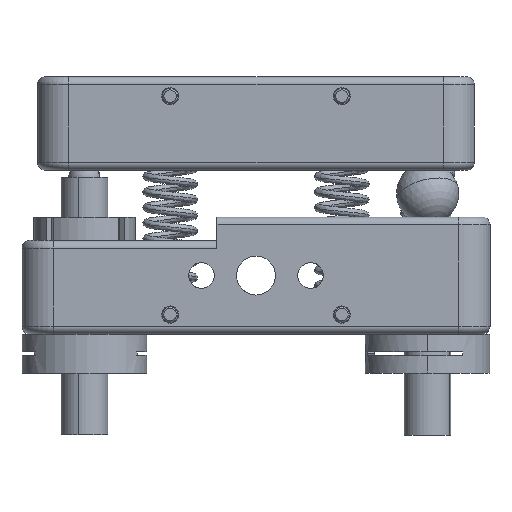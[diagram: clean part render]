
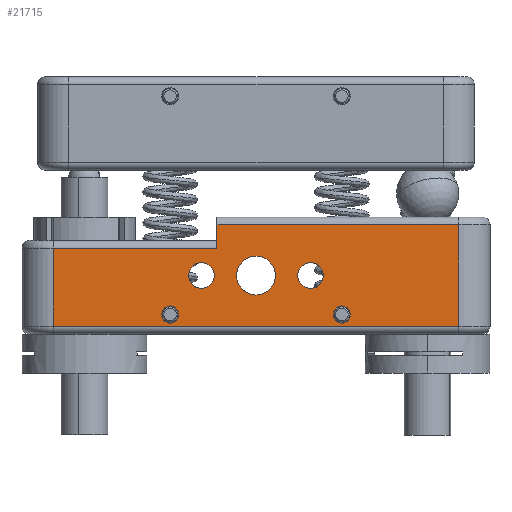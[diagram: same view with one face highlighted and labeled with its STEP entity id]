
A CAD part, left-side view. The second image highlights one B-rep face of the part: STEP entity #21715.
In plain terms, the highlighted planar face has unit normal (-1, 0, 0).
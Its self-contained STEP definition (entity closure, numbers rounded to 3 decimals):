
#111 = ORIENTED_EDGE ( 'NONE', *, *, #7752, .T. ) ;
#269 = AXIS2_PLACEMENT_3D ( 'NONE', #3265, #16170, #5066 ) ;
#406 = EDGE_CURVE ( 'NONE', #20799, #4411, #5115, .T. ) ;
#437 = VERTEX_POINT ( 'NONE', #9487 ) ;
#506 = CARTESIAN_POINT ( 'NONE',  ( -31.266, 5.345, 11. ) ) ;
#511 = DIRECTION ( 'NONE',  ( 0., 0., 1. ) ) ;
#738 = FACE_BOUND ( 'NONE', #16168, .T. ) ;
#922 = DIRECTION ( 'NONE',  ( -1., 0., 0. ) ) ;
#984 = CARTESIAN_POINT ( 'NONE',  ( -31.266, -10.655, 2.5 ) ) ;
#1332 = EDGE_CURVE ( 'NONE', #3643, #23104, #8887, .T. ) ;
#1652 = CARTESIAN_POINT ( 'NONE',  ( -31.266, 26.345, 11. ) ) ;
#2267 = VECTOR ( 'NONE', #17707, 1000. ) ;
#2373 = ORIENTED_EDGE ( 'NONE', *, *, #16230, .T. ) ;
#2389 = VECTOR ( 'NONE', #6698, 1000. ) ;
#2422 = FACE_BOUND ( 'NONE', #20672, .T. ) ;
#2715 = CIRCLE ( 'NONE', #4018, 1.1 ) ;
#2752 = CARTESIAN_POINT ( 'NONE',  ( -31.266, 11.345, 2.5 ) ) ;
#2787 = DIRECTION ( 'NONE',  ( 0., 0., 1. ) ) ;
#3214 = CARTESIAN_POINT ( 'NONE',  ( -31.266, 26.345, 15. ) ) ;
#3265 = CARTESIAN_POINT ( 'NONE',  ( -31.266, 11.345, 2.5 ) ) ;
#3626 = DIRECTION ( 'NONE',  ( -1., 0., 0. ) ) ;
#3643 = VERTEX_POINT ( 'NONE', #21770 ) ;
#3853 = CARTESIAN_POINT ( 'NONE',  ( -31.266, -10.655, 1.4 ) ) ;
#3863 = ORIENTED_EDGE ( 'NONE', *, *, #9058, .F. ) ;
#3909 = LINE ( 'NONE', #16360, #8179 ) ;
#3978 = AXIS2_PLACEMENT_3D ( 'NONE', #22540, #11443, #511 ) ;
#4018 = AXIS2_PLACEMENT_3D ( 'NONE', #984, #13809, #2787 ) ;
#4144 = VECTOR ( 'NONE', #14368, 1000. ) ;
#4254 = VERTEX_POINT ( 'NONE', #4862 ) ;
#4411 = VERTEX_POINT ( 'NONE', #16114 ) ;
#4576 = CARTESIAN_POINT ( 'NONE',  ( -31.266, 30.345, 1. ) ) ;
#4577 = DIRECTION ( 'NONE',  ( 0., 0., 1. ) ) ;
#4616 = ORIENTED_EDGE ( 'NONE', *, *, #1332, .F. ) ;
#4732 = AXIS2_PLACEMENT_3D ( 'NONE', #9227, #22184, #11084 ) ;
#4743 = CARTESIAN_POINT ( 'NONE',  ( -31.266, -25.655, 15. ) ) ;
#4862 = CARTESIAN_POINT ( 'NONE',  ( -31.266, 26.345, 1. ) ) ;
#5066 = DIRECTION ( 'NONE',  ( 0., 0., 1. ) ) ;
#5115 = CIRCLE ( 'NONE', #12026, 2.5 ) ;
#5213 = CIRCLE ( 'NONE', #20154, 1.65 ) ;
#5217 = ORIENTED_EDGE ( 'NONE', *, *, #12621, .F. ) ;
#5235 = CIRCLE ( 'NONE', #21394, 2.5 ) ;
#5304 = LINE ( 'NONE', #3214, #9630 ) ;
#5521 = FACE_BOUND ( 'NONE', #7957, .T. ) ;
#5783 = CARTESIAN_POINT ( 'NONE',  ( -31.266, 11.345, 1.4 ) ) ;
#6345 = LINE ( 'NONE', #12271, #2389 ) ;
#6423 = ORIENTED_EDGE ( 'NONE', *, *, #8915, .F. ) ;
#6698 = DIRECTION ( 'NONE',  ( 0., 1., 0. ) ) ;
#6809 = ORIENTED_EDGE ( 'NONE', *, *, #406, .F. ) ;
#6820 = DIRECTION ( 'NONE',  ( 0., 0., -1. ) ) ;
#7368 = CARTESIAN_POINT ( 'NONE',  ( -31.266, -25.655, 14. ) ) ;
#7658 = CARTESIAN_POINT ( 'NONE',  ( -31.266, 0.345, 7.5 ) ) ;
#7752 = EDGE_CURVE ( 'NONE', #20217, #4254, #5304, .T. ) ;
#7957 = EDGE_LOOP ( 'NONE', ( #6809, #5217 ) ) ;
#8009 = CARTESIAN_POINT ( 'NONE',  ( -31.266, 0.345, 10. ) ) ;
#8179 = VECTOR ( 'NONE', #12610, 1000. ) ;
#8432 = CARTESIAN_POINT ( 'NONE',  ( -31.266, -25.655, 1. ) ) ;
#8463 = EDGE_LOOP ( 'NONE', ( #111, #2373, #14830, #19815, #17528, #13643 ) ) ;
#8482 = EDGE_CURVE ( 'NONE', #22182, #10419, #10777, .T. ) ;
#8582 = EDGE_CURVE ( 'NONE', #11191, #20217, #15110, .T. ) ;
#8671 = EDGE_CURVE ( 'NONE', #23104, #3643, #12233, .T. ) ;
#8757 = VERTEX_POINT ( 'NONE', #3853 ) ;
#8887 = CIRCLE ( 'NONE', #10889, 1.65 ) ;
#8915 = EDGE_CURVE ( 'NONE', #8757, #18630, #14266, .T. ) ;
#9058 = EDGE_CURVE ( 'NONE', #18630, #8757, #2715, .T. ) ;
#9227 = CARTESIAN_POINT ( 'NONE',  ( -31.266, 7.345, 7.5 ) ) ;
#9347 = CARTESIAN_POINT ( 'NONE',  ( -31.266, -10.655, 3.6 ) ) ;
#9487 = CARTESIAN_POINT ( 'NONE',  ( -31.266, -6.655, 5.85 ) ) ;
#9566 = AXIS2_PLACEMENT_3D ( 'NONE', #16050, #18020, #6820 ) ;
#9630 = VECTOR ( 'NONE', #21761, 1000. ) ;
#9723 = EDGE_CURVE ( 'NONE', #10419, #22182, #13201, .T. ) ;
#9830 = EDGE_CURVE ( 'NONE', #22001, #11047, #22456, .T. ) ;
#9873 = AXIS2_PLACEMENT_3D ( 'NONE', #10603, #23577, #12483 ) ;
#9893 = EDGE_CURVE ( 'NONE', #437, #17077, #21033, .T. ) ;
#9929 = CARTESIAN_POINT ( 'NONE',  ( -31.266, -6.655, 9.15 ) ) ;
#10333 = DIRECTION ( 'NONE',  ( -1., 0., 0. ) ) ;
#10419 = VERTEX_POINT ( 'NONE', #5783 ) ;
#10462 = FACE_BOUND ( 'NONE', #15928, .T. ) ;
#10603 = CARTESIAN_POINT ( 'NONE',  ( -31.266, -6.655, 7.5 ) ) ;
#10705 = CARTESIAN_POINT ( 'NONE',  ( -31.266, 26.345, 11. ) ) ;
#10777 = CIRCLE ( 'NONE', #269, 1.1 ) ;
#10889 = AXIS2_PLACEMENT_3D ( 'NONE', #21179, #10333, #13660 ) ;
#11047 = VERTEX_POINT ( 'NONE', #7368 ) ;
#11084 = DIRECTION ( 'NONE',  ( 0., 0., 1. ) ) ;
#11191 = VERTEX_POINT ( 'NONE', #506 ) ;
#11443 = DIRECTION ( 'NONE',  ( -1., 0., 0. ) ) ;
#11878 = CARTESIAN_POINT ( 'NONE',  ( -31.266, 0.345, 7.5 ) ) ;
#12026 = AXIS2_PLACEMENT_3D ( 'NONE', #7658, #21482, #17969 ) ;
#12225 = FACE_BOUND ( 'NONE', #17693, .T. ) ;
#12233 = CIRCLE ( 'NONE', #4732, 1.65 ) ;
#12271 = CARTESIAN_POINT ( 'NONE',  ( -31.266, 5.345, 14. ) ) ;
#12483 = DIRECTION ( 'NONE',  ( 0., 0., 1. ) ) ;
#12502 = ORIENTED_EDGE ( 'NONE', *, *, #8482, .F. ) ;
#12610 = DIRECTION ( 'NONE',  ( 0., 0., 1. ) ) ;
#12621 = EDGE_CURVE ( 'NONE', #4411, #20799, #5235, .T. ) ;
#13201 = CIRCLE ( 'NONE', #13307, 1.1 ) ;
#13307 = AXIS2_PLACEMENT_3D ( 'NONE', #2752, #15646, #4577 ) ;
#13464 = VECTOR ( 'NONE', #15645, 1000. ) ;
#13566 = EDGE_CURVE ( 'NONE', #17077, #437, #5213, .T. ) ;
#13643 = ORIENTED_EDGE ( 'NONE', *, *, #8582, .T. ) ;
#13660 = DIRECTION ( 'NONE',  ( 0., 0., 1. ) ) ;
#13712 = ORIENTED_EDGE ( 'NONE', *, *, #9893, .F. ) ;
#13757 = DIRECTION ( 'NONE',  ( 0., 0., 1. ) ) ;
#13809 = DIRECTION ( 'NONE',  ( -1., 0., 0. ) ) ;
#14266 = CIRCLE ( 'NONE', #3978, 1.1 ) ;
#14368 = DIRECTION ( 'NONE',  ( 0., 1., 0. ) ) ;
#14660 = CARTESIAN_POINT ( 'NONE',  ( -31.266, -6.655, 7.5 ) ) ;
#14830 = ORIENTED_EDGE ( 'NONE', *, *, #9830, .T. ) ;
#15110 = LINE ( 'NONE', #10705, #4144 ) ;
#15286 = ORIENTED_EDGE ( 'NONE', *, *, #9723, .F. ) ;
#15645 = DIRECTION ( 'NONE',  ( 0., -1., 0. ) ) ;
#15646 = DIRECTION ( 'NONE',  ( -1., 0., 0. ) ) ;
#15928 = EDGE_LOOP ( 'NONE', ( #3863, #6423 ) ) ;
#16050 = CARTESIAN_POINT ( 'NONE',  ( -31.266, 30.345, 15. ) ) ;
#16114 = CARTESIAN_POINT ( 'NONE',  ( -31.266, 0.345, 5. ) ) ;
#16168 = EDGE_LOOP ( 'NONE', ( #4616, #20050 ) ) ;
#16170 = DIRECTION ( 'NONE',  ( -1., 0., 0. ) ) ;
#16230 = EDGE_CURVE ( 'NONE', #4254, #22001, #17865, .T. ) ;
#16360 = CARTESIAN_POINT ( 'NONE',  ( -31.266, 5.345, 12. ) ) ;
#16546 = DIRECTION ( 'NONE',  ( 0., 0., 1. ) ) ;
#17077 = VERTEX_POINT ( 'NONE', #9929 ) ;
#17528 = ORIENTED_EDGE ( 'NONE', *, *, #18472, .F. ) ;
#17693 = EDGE_LOOP ( 'NONE', ( #12502, #15286 ) ) ;
#17707 = DIRECTION ( 'NONE',  ( 0., 0., 1. ) ) ;
#17865 = LINE ( 'NONE', #4576, #13464 ) ;
#17969 = DIRECTION ( 'NONE',  ( 0., 0., 1. ) ) ;
#18020 = DIRECTION ( 'NONE',  ( 1., 0., 0. ) ) ;
#18150 = VERTEX_POINT ( 'NONE', #20472 ) ;
#18472 = EDGE_CURVE ( 'NONE', #11191, #18150, #3909, .T. ) ;
#18526 = CARTESIAN_POINT ( 'NONE',  ( -31.266, 11.345, 3.6 ) ) ;
#18630 = VERTEX_POINT ( 'NONE', #9347 ) ;
#19767 = FACE_OUTER_BOUND ( 'NONE', #8463, .T. ) ;
#19815 = ORIENTED_EDGE ( 'NONE', *, *, #22075, .T. ) ;
#20050 = ORIENTED_EDGE ( 'NONE', *, *, #8671, .F. ) ;
#20154 = AXIS2_PLACEMENT_3D ( 'NONE', #14660, #3626, #16546 ) ;
#20217 = VERTEX_POINT ( 'NONE', #1652 ) ;
#20472 = CARTESIAN_POINT ( 'NONE',  ( -31.266, 5.345, 14. ) ) ;
#20672 = EDGE_LOOP ( 'NONE', ( #22829, #13712 ) ) ;
#20799 = VERTEX_POINT ( 'NONE', #8009 ) ;
#21033 = CIRCLE ( 'NONE', #9873, 1.65 ) ;
#21179 = CARTESIAN_POINT ( 'NONE',  ( -31.266, 7.345, 7.5 ) ) ;
#21394 = AXIS2_PLACEMENT_3D ( 'NONE', #11878, #922, #13757 ) ;
#21482 = DIRECTION ( 'NONE',  ( -1., 0., 0. ) ) ;
#21644 = CARTESIAN_POINT ( 'NONE',  ( -31.266, 7.345, 5.85 ) ) ;
#21715 = ADVANCED_FACE ( 'NONE', ( #10462, #12225, #5521, #738, #2422, #19767 ), #23476, .F. ) ;
#21761 = DIRECTION ( 'NONE',  ( 0., 0., -1. ) ) ;
#21770 = CARTESIAN_POINT ( 'NONE',  ( -31.266, 7.345, 9.15 ) ) ;
#22001 = VERTEX_POINT ( 'NONE', #8432 ) ;
#22075 = EDGE_CURVE ( 'NONE', #11047, #18150, #6345, .T. ) ;
#22182 = VERTEX_POINT ( 'NONE', #18526 ) ;
#22184 = DIRECTION ( 'NONE',  ( -1., 0., 0. ) ) ;
#22456 = LINE ( 'NONE', #4743, #2267 ) ;
#22540 = CARTESIAN_POINT ( 'NONE',  ( -31.266, -10.655, 2.5 ) ) ;
#22829 = ORIENTED_EDGE ( 'NONE', *, *, #13566, .F. ) ;
#23104 = VERTEX_POINT ( 'NONE', #21644 ) ;
#23476 = PLANE ( 'NONE',  #9566 ) ;
#23577 = DIRECTION ( 'NONE',  ( -1., 0., 0. ) ) ;
